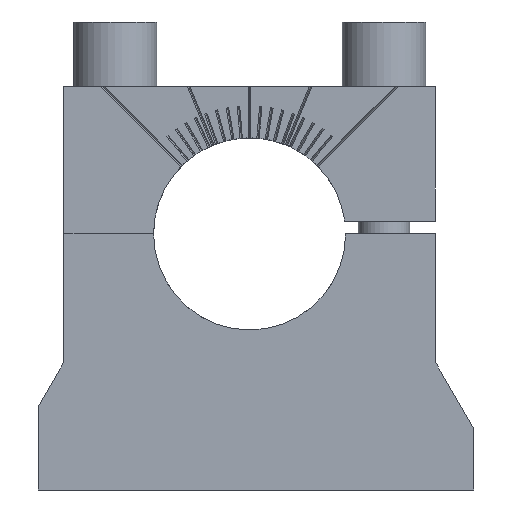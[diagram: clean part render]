
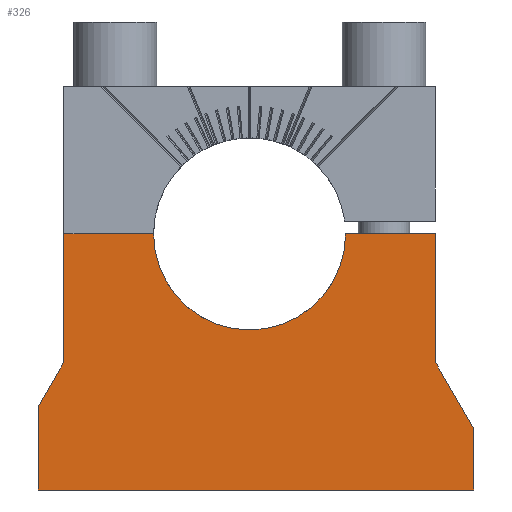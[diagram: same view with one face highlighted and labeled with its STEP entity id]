
A CAD part, front view. The second image highlights one B-rep face of the part: STEP entity #326.
In plain terms, the highlighted planar face has unit normal (0, -1, 0).
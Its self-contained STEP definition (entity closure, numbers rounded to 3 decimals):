
#326=ADVANCED_FACE('Pad.1',(#787),#788,.T.);
#787=FACE_OUTER_BOUND('',#1425,.T.);
#788=PLANE('',#1426);
#1425=EDGE_LOOP('',(#2229,#2230,#2231,#2232,#2233,#2234,#2235,#2236,#2237,#2238));
#1426=AXIS2_PLACEMENT_3D('',#2239,#2240,#2241);
#2229=ORIENTED_EDGE('',*,*,#3876,.T.);
#2230=ORIENTED_EDGE('',*,*,#3882,.T.);
#2231=ORIENTED_EDGE('',*,*,#3883,.T.);
#2232=ORIENTED_EDGE('',*,*,#3884,.T.);
#2233=ORIENTED_EDGE('',*,*,#3885,.T.);
#2234=ORIENTED_EDGE('',*,*,#3886,.T.);
#2235=ORIENTED_EDGE('',*,*,#3887,.T.);
#2236=ORIENTED_EDGE('',*,*,#3888,.T.);
#2237=ORIENTED_EDGE('',*,*,#3889,.T.);
#2238=ORIENTED_EDGE('',*,*,#3880,.T.);
#2239=CARTESIAN_POINT('',(0.0,-6.5,0.0));
#2240=DIRECTION('',(0.0,-1.0,0.0));
#2241=DIRECTION('',(1.0,0.0,0.0));
#3876=EDGE_CURVE('',#4681,#4686,#4688,.T.);
#3880=EDGE_CURVE('',#4690,#4681,#4694,.T.);
#3882=EDGE_CURVE('',#4686,#4696,#4697,.T.);
#3883=EDGE_CURVE('',#4696,#4698,#4699,.T.);
#3884=EDGE_CURVE('',#4698,#4700,#4701,.F.);
#3885=EDGE_CURVE('',#4700,#4702,#4703,.T.);
#3886=EDGE_CURVE('',#4702,#4704,#4705,.F.);
#3887=EDGE_CURVE('',#4704,#4706,#4707,.F.);
#3888=EDGE_CURVE('',#4706,#4708,#4709,.T.);
#3889=EDGE_CURVE('',#4708,#4690,#4710,.T.);
#4681=VERTEX_POINT('',#6109);
#4686=VERTEX_POINT('',#6116);
#4688=LINE('',#6119,#6120);
#4690=VERTEX_POINT('',#6122);
#4694=LINE('',#6128,#6129);
#4696=VERTEX_POINT('',#6131);
#4697=LINE('',#6132,#6133);
#4698=VERTEX_POINT('',#6134);
#4699=LINE('',#6135,#6136);
#4700=VERTEX_POINT('',#6137);
#4701=CIRCLE('',#6138,15.0);
#4702=VERTEX_POINT('',#6139);
#4703=LINE('',#6140,#6141);
#4704=VERTEX_POINT('',#6142);
#4705=LINE('',#6143,#6144);
#4706=VERTEX_POINT('',#6145);
#4707=LINE('',#6146,#6147);
#4708=VERTEX_POINT('',#6148);
#4709=LINE('',#6149,#6150);
#4710=LINE('',#6151,#6152);
#6109=CARTESIAN_POINT('',(35.0,-6.5,-30.392));
#6116=CARTESIAN_POINT('',(29.0,-6.5,-20.0));
#6119=CARTESIAN_POINT('',(32.0,-6.5,-25.196));
#6120=VECTOR('',#7755,1.0);
#6122=CARTESIAN_POINT('',(35.0,-6.5,-40.0));
#6128=CARTESIAN_POINT('',(35.0,-6.5,-35.196));
#6129=VECTOR('',#7758,1.0);
#6131=CARTESIAN_POINT('',(29.0,-6.5,0.0));
#6132=CARTESIAN_POINT('',(29.0,-6.5,-10.0));
#6133=VECTOR('',#7759,1.0);
#6134=CARTESIAN_POINT('',(15.0,-6.5,0.0));
#6135=CARTESIAN_POINT('',(22.,-6.5,0.0));
#6136=VECTOR('',#7760,1.0);
#6137=CARTESIAN_POINT('',(-15.0,-6.5,0.));
#6138=AXIS2_PLACEMENT_3D('',#7761,#7762,#7763);
#6139=CARTESIAN_POINT('',(-29.,-6.5,0.0));
#6140=CARTESIAN_POINT('',(-22.,-6.5,0.0));
#6141=VECTOR('',#7764,1.0);
#6142=CARTESIAN_POINT('',(-29.0,-6.5,-20.0));
#6143=CARTESIAN_POINT('',(-29.0,-6.5,-10.0));
#6144=VECTOR('',#7765,1.0);
#6145=CARTESIAN_POINT('',(-33.0,-6.5,-26.928));
#6146=CARTESIAN_POINT('',(-31.0,-6.5,-23.464));
#6147=VECTOR('',#7766,1.0);
#6148=CARTESIAN_POINT('',(-33.0,-6.5,-40.0));
#6149=CARTESIAN_POINT('',(-33.0,-6.5,-33.464));
#6150=VECTOR('',#7767,1.0);
#6151=CARTESIAN_POINT('',(1.,-6.5,-40.0));
#6152=VECTOR('',#7768,1.0);
#7755=DIRECTION('',(-0.5,0.0,0.866));
#7758=DIRECTION('',(0.0,0.0,1.0));
#7759=DIRECTION('',(0.0,0.0,1.0));
#7760=DIRECTION('',(-1.0,0.0,0.0));
#7761=CARTESIAN_POINT('',(0.0,-6.5,0.0));
#7762=DIRECTION('',(0.0,-1.0,0.0));
#7763=DIRECTION('',(1.0,0.0,0.0));
#7764=DIRECTION('',(-1.0,0.0,0.0));
#7765=DIRECTION('',(0.0,0.0,1.0));
#7766=DIRECTION('',(0.5,0.0,0.866));
#7767=DIRECTION('',(0.0,0.0,-1.0));
#7768=DIRECTION('',(1.0,0.0,0.0));
